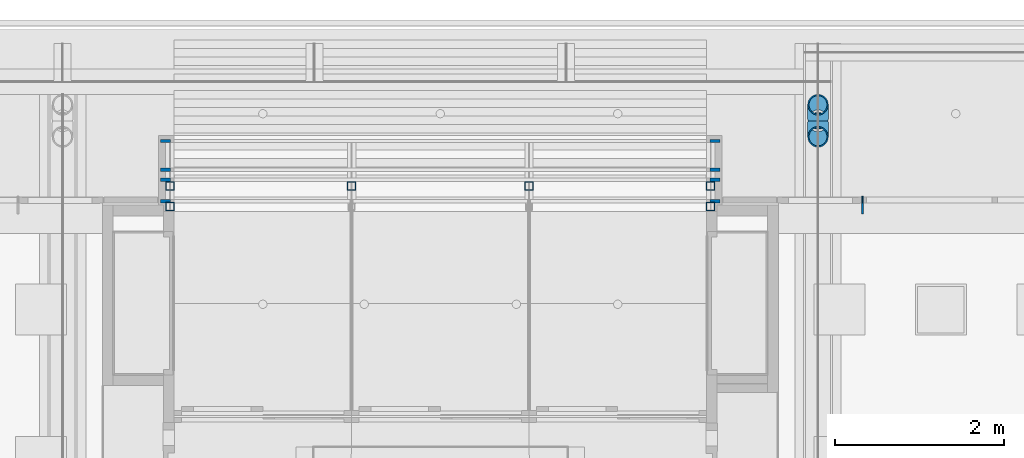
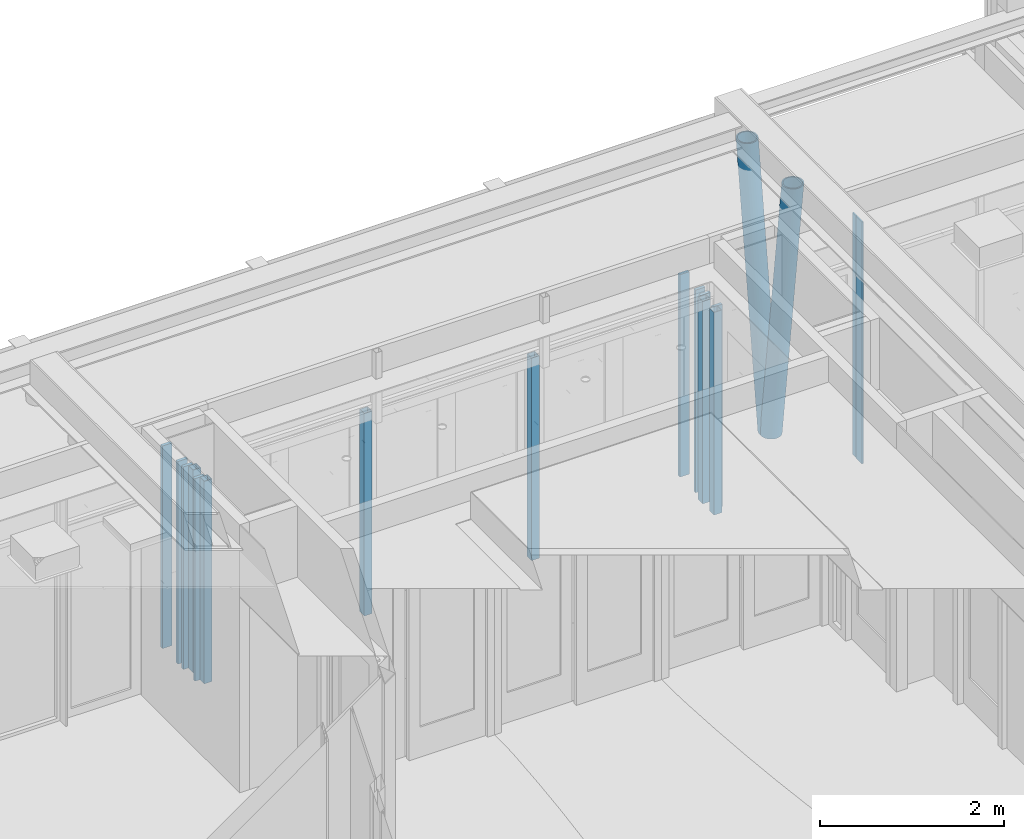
# One storey, part 21 of 347: 18 columns.
"""IFC2X3 building model written with IfcOpenShell, lengths in millimetres."""

from ifc_helpers import new_model, entity, si_unit, converted_unit, derived_unit, money_unit, direction, frame, origin_with_axes, place, context, subcontext, project, spatial, faceted_brep, material, type_object, element, save


model = new_model("IFC2X3")

# Units and contexts
model_context = context("Model", 3, precision=0.01, world=origin_with_axes(), true_north=direction((0.0, 1.0)))
plan_context = context("Plan", 3, precision=0.01, world=origin_with_axes(), true_north=direction((0.0, 1.0)))
body_context = subcontext(model_context, "Body", "Model", "MODEL_VIEW")
ifc_project = project(units=[si_unit("LENGTHUNIT", "METRE", prefix="MILLI"), si_unit("AREAUNIT", "SQUARE_METRE"), si_unit("VOLUMEUNIT", "CUBIC_METRE"), converted_unit("PLANEANGLEUNIT", "DEGREE", entity("IfcPlaneAngleMeasure", 0.0174532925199), si_unit("PLANEANGLEUNIT", "RADIAN"), dimensions=[0, 0, 0, 0, 0, 0, 0]), money_unit("EUR"), converted_unit("TIMEUNIT", "Year", entity("IfcTimeMeasure", 31556926.0), si_unit("TIMEUNIT", "SECOND"), dimensions=[0, 0, 1, 0, 0, 0, 0]), si_unit("MASSUNIT", "GRAM", prefix="KILO"), si_unit("THERMODYNAMICTEMPERATUREUNIT", "DEGREE_CELSIUS"), si_unit("LUMINOUSINTENSITYUNIT", "LUMEN"), si_unit("ENERGYUNIT", "JOULE", prefix="MEGA"), derived_unit("THERMALCONDUCTANCEUNIT", [(si_unit("POWERUNIT", "WATT"), 1), (si_unit("LENGTHUNIT", "METRE"), -1), (si_unit("THERMODYNAMICTEMPERATUREUNIT", "KELVIN"), -1)]), derived_unit("SPECIFICHEATCAPACITYUNIT", [(si_unit("ENERGYUNIT", "JOULE"), 1), (si_unit("MASSUNIT", "GRAM", prefix="KILO"), -1), (si_unit("THERMODYNAMICTEMPERATUREUNIT", "KELVIN"), -1)]), derived_unit("MASSDENSITYUNIT", [(si_unit("MASSUNIT", "GRAM", prefix="KILO"), 1), (si_unit("VOLUMEUNIT", "CUBIC_METRE"), -1)])], contexts=[model_context, plan_context])

# Site, building, storey
site_placement = place(None, origin_with_axes())
site = spatial("IfcSite", under=ifc_project, at=site_placement, Name="Site", CompositionType="ELEMENT")
building_placement = place(site_placement, origin_with_axes())
building = spatial("IfcBuilding", under=site, at=building_placement, Name="Naam gebouw", CompositionType="ELEMENT")
storey_placement = place(building_placement, origin_with_axes())
storey = spatial("IfcBuildingStorey", under=building, at=storey_placement, Name="begane grond", CompositionType="ELEMENT", Elevation=0.0)

# Columns
ifc_material_1 = material(Name="Metaal - Staal C wit")
column_type_1 = type_object("IfcColumnType", Name="Lucht D245", PredefinedType="COLUMN")
column_1_placement = place(storey_placement, frame((44545.0, 46102.3770701, -70.0), z_axis=(0.0, 0.0, 1.0), x_axis=(-1.0, 0.0, 0.0)))
element("IfcColumn", 1, at=column_1_placement, inside=storey, type_object=column_type_1, material=ifc_material_1, Name="28_kolom ø 273mm", ObjectType="COLUMN", context=body_context, shape_type="Brep", body=[
    faceted_brep([(119.184937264, 27.4379193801, 0.0), (110.143444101, 53.4999869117, 0.0), (110.143444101, 528.765503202, 3610.0), (119.184937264, 502.703435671, 3610.0), (122.25, 0.0, 0.0), (119.184937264, -27.4379193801, 0.0), (110.143444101, -53.4999869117, 0.0), (95.5788987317, -76.879341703, 0.0), (76.2216282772, -96.4036452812, 0.0), (53.0422871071, -111.093867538, 0.0), (27.2031841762, -120.21337939, 0.0), (0.0, -123.304890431, 0.0), (-27.2031841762, -120.21337939, 0.0), (-53.0422871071, -111.093867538, 0.0), (-76.2216282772, -96.4036452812, 0.0), (-95.5788987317, -76.879341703, 0.0), (-110.143444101, -53.4999869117, 0.0), (-119.184937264, -27.4379193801, 0.0), (-122.25, 0.0, 0.0), (-119.184937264, 27.4379193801, 0.0), (-110.143444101, 53.4999869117, 0.0), (-95.5788987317, 76.879341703, 0.0), (-76.2216282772, 96.4036452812, 0.0), (-53.0422871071, 111.093867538, 0.0), (-27.2031841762, 120.21337939, 0.0), (0.0, 123.304890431, 0.0), (27.2031841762, 120.21337939, 0.0), (53.0422871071, 111.093867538, 0.0), (76.2216282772, 96.4036452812, 0.0), (95.5788987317, 76.879341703, 0.0), (102.629619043, -27.7368158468, 0.0), (106.25, 0.0, 0.0), (102.629619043, 27.7368158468, 0.0), (92.0151991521, 53.5834135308, 0.0), (75.1300955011, 75.7783901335, 0.0), (53.125, 92.8091946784, 0.0), (27.4995235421, 103.51520598, 0.0), (0.0, 107.166827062, 0.0), (-27.4995235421, 103.51520598, 0.0), (-53.125, 92.8091946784, 0.0), (-75.1300955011, 75.7783901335, 0.0), (-92.0151991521, 53.5834135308, 0.0), (-102.629619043, 27.7368158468, 0.0), (-106.25, 0.0, 0.0), (-102.629619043, -27.7368158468, 0.0), (-92.0151991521, -53.5834135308, 0.0), (-75.1300955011, -75.7783901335, 0.0), (-53.125, -92.8091946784, 0.0), (-27.4995235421, -103.51520598, 0.0), (0.0, -107.166827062, 0.0), (27.4995235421, -103.51520598, 0.0), (53.125, -92.8091946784, 0.0), (75.1300955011, -75.7783901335, 0.0), (92.0151991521, -53.5834135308, 0.0), (95.5788987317, 552.144857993, 3610.0), (76.2216282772, 571.669161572, 3610.0), (53.0422871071, 586.359383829, 3610.0), (27.2031841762, 595.47889568, 3610.0), (0.0, 598.570406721, 3610.0), (-27.2031841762, 595.47889568, 3610.0), (-53.0422871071, 586.359383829, 3610.0), (-76.2216282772, 571.669161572, 3610.0), (-95.5788987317, 552.144857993, 3610.0), (-110.143444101, 528.765503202, 3610.0), (-119.184937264, 502.703435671, 3610.0), (-122.25, 475.26551629, 3610.0), (-119.184937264, 447.82759691, 3610.0), (-110.143444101, 421.765529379, 3610.0), (-95.5788987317, 398.386174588, 3610.0), (-76.2216282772, 378.861871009, 3610.0), (-53.0422871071, 364.171648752, 3610.0), (-27.2031841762, 355.052136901, 3610.0), (0.0, 351.96062586, 3610.0), (27.2031841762, 355.052136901, 3610.0), (53.0422871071, 364.171648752, 3610.0), (76.2216282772, 378.861871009, 3610.0), (95.5788987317, 398.386174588, 3610.0), (110.143444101, 421.765529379, 3610.0), (119.184937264, 447.82759691, 3610.0), (122.25, 475.26551629, 3610.0), (102.629619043, 447.528700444, 3610.0), (92.0151991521, 421.68210276, 3610.0), (75.1300955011, 399.487126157, 3610.0), (53.125, 382.456321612, 3610.0), (27.4995235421, 371.75031031, 3610.0), (0.0, 368.098689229, 3610.0), (-27.4995235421, 371.75031031, 3610.0), (-53.125, 382.456321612, 3610.0), (-75.1300955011, 399.487126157, 3610.0), (-92.0151991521, 421.68210276, 3610.0), (-102.629619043, 447.528700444, 3610.0), (-106.25, 475.26551629, 3610.0), (-102.629619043, 503.002332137, 3610.0), (-92.0151991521, 528.848929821, 3610.0), (-75.1300955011, 551.043906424, 3610.0), (-53.125, 568.074710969, 3610.0), (-27.4995235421, 578.780722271, 3610.0), (0.0, 582.432343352, 3610.0), (27.4995235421, 578.780722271, 3610.0), (53.125, 568.074710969, 3610.0), (75.1300955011, 551.043906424, 3610.0), (92.0151991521, 528.848929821, 3610.0), (102.629619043, 503.002332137, 3610.0), (106.25, 475.26551629, 3610.0)], [[[0, 1, 2, 3]], [[0, 4, 5, 6, 7, 8, 9, 10, 11, 12, 13, 14, 15, 16, 17, 18, 19, 20, 21, 22, 23, 24, 25, 26, 27, 28, 29, 1], [30, 31, 32, 33, 34, 35, 36, 37, 38, 39, 40, 41, 42, 43, 44, 45, 46, 47, 48, 49, 50, 51, 52, 53]], [[1, 29, 54, 2]], [[3, 2, 54, 55, 56, 57, 58, 59, 60, 61, 62, 63, 64, 65, 66, 67, 68, 69, 70, 71, 72, 73, 74, 75, 76, 77, 78, 79], [80, 81, 82, 83, 84, 85, 86, 87, 88, 89, 90, 91, 92, 93, 94, 95, 96, 97, 98, 99, 100, 101, 102, 103]], [[4, 0, 3, 79]], [[5, 4, 79, 78]], [[6, 5, 78, 77]], [[7, 6, 77, 76]], [[8, 7, 76, 75]], [[9, 8, 75, 74]], [[10, 9, 74, 73]], [[11, 10, 73, 72]], [[12, 11, 72, 71]], [[13, 12, 71, 70]], [[14, 13, 70, 69]], [[15, 14, 69, 68]], [[16, 15, 68, 67]], [[17, 16, 67, 66]], [[18, 17, 66, 65]], [[19, 18, 65, 64]], [[20, 19, 64, 63]], [[21, 20, 63, 62]], [[22, 21, 62, 61]], [[23, 22, 61, 60]], [[24, 23, 60, 59]], [[25, 24, 59, 58]], [[26, 25, 58, 57]], [[27, 26, 57, 56]], [[28, 27, 56, 55]], [[29, 28, 55, 54]], [[31, 30, 80, 103]], [[32, 31, 103, 102]], [[33, 32, 102, 101]], [[34, 33, 101, 100]], [[35, 34, 100, 99]], [[36, 35, 99, 98]], [[37, 36, 98, 97]], [[38, 37, 97, 96]], [[39, 38, 96, 95]], [[40, 39, 95, 94]], [[41, 40, 94, 93]], [[42, 41, 93, 92]], [[43, 42, 92, 91]], [[44, 43, 91, 90]], [[45, 44, 90, 89]], [[46, 45, 89, 88]], [[47, 46, 88, 87]], [[48, 47, 87, 86]], [[49, 48, 86, 85]], [[50, 49, 85, 84]], [[51, 50, 84, 83]], [[52, 51, 83, 82]], [[53, 52, 82, 81]], [[30, 53, 81, 80]]]),
])
column_2_placement = place(storey_placement, frame((44545.0, 46145.9641106, -70.0), z_axis=(0.0, 0.0, 1.0), x_axis=(1.0, 0.0, 0.0)))
element("IfcColumn", 2, at=column_2_placement, inside=storey, type_object=column_type_1, material=ifc_material_1, Name="28_kolom ø 273mm", ObjectType="COLUMN", context=body_context, shape_type="Brep", body=[
    faceted_brep([(-122.25, 0.0, 0.0), (-119.184937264, -27.4379193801, 0.0), (-119.184937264, 447.82759691, 3610.0), (-122.25, 475.26551629, 3610.0), (-119.184937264, 27.4379193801, 0.0), (-110.143444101, 53.4999869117, 0.0), (-95.5788987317, 76.879341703, 0.0), (-76.2216282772, 96.4036452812, 0.0), (-53.0422871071, 111.093867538, 0.0), (-27.2031841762, 120.21337939, 0.0), (0.0, 123.304890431, 0.0), (27.2031841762, 120.21337939, 0.0), (53.0422871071, 111.093867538, 0.0), (76.2216282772, 96.4036452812, 0.0), (95.5788987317, 76.879341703, 0.0), (110.143444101, 53.4999869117, 0.0), (119.184937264, 27.4379193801, 0.0), (122.25, 0.0, 0.0), (119.184937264, -27.4379193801, 0.0), (110.143444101, -53.4999869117, 0.0), (95.5788987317, -76.879341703, 0.0), (76.2216282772, -96.4036452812, 0.0), (53.0422871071, -111.093867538, 0.0), (27.2031841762, -120.21337939, 0.0), (0.0, -123.304890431, 0.0), (-27.2031841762, -120.21337939, 0.0), (-53.0422871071, -111.093867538, 0.0), (-76.2216282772, -96.4036452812, 0.0), (-95.5788987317, -76.879341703, 0.0), (-110.143444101, -53.4999869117, 0.0), (-106.25, 0.0, 0.0), (-102.629619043, -27.7368158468, 0.0), (-92.0151991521, -53.5834135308, 0.0), (-75.1300955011, -75.7783901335, 0.0), (-53.125, -92.8091946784, 0.0), (-27.4995235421, -103.51520598, 0.0), (0.0, -107.166827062, 0.0), (27.4995235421, -103.51520598, 0.0), (53.125, -92.8091946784, 0.0), (75.1300955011, -75.7783901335, 0.0), (92.0151991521, -53.5834135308, 0.0), (102.629619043, -27.7368158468, 0.0), (106.25, 0.0, 0.0), (102.629619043, 27.7368158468, 0.0), (92.0151991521, 53.5834135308, 0.0), (75.1300955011, 75.7783901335, 0.0), (53.125, 92.8091946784, 0.0), (27.4995235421, 103.51520598, 0.0), (0.0, 107.166827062, 0.0), (-27.4995235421, 103.51520598, 0.0), (-53.125, 92.8091946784, 0.0), (-75.1300955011, 75.7783901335, 0.0), (-92.0151991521, 53.5834135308, 0.0), (-102.629619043, 27.7368158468, 0.0), (-110.143444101, 421.765529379, 3610.0), (-95.5788987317, 398.386174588, 3610.0), (-76.2216282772, 378.861871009, 3610.0), (-53.0422871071, 364.171648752, 3610.0), (-27.2031841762, 355.052136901, 3610.0), (0.0, 351.96062586, 3610.0), (27.2031841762, 355.052136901, 3610.0), (53.0422871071, 364.171648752, 3610.0), (76.2216282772, 378.861871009, 3610.0), (95.5788987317, 398.386174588, 3610.0), (110.143444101, 421.765529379, 3610.0), (119.184937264, 447.82759691, 3610.0), (122.25, 475.26551629, 3610.0), (119.184937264, 502.703435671, 3610.0), (110.143444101, 528.765503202, 3610.0), (95.5788987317, 552.144857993, 3610.0), (76.2216282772, 571.669161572, 3610.0), (53.0422871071, 586.359383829, 3610.0), (27.2031841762, 595.47889568, 3610.0), (0.0, 598.570406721, 3610.0), (-27.2031841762, 595.47889568, 3610.0), (-53.0422871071, 586.359383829, 3610.0), (-76.2216282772, 571.669161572, 3610.0), (-95.5788987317, 552.144857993, 3610.0), (-110.143444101, 528.765503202, 3610.0), (-119.184937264, 502.703435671, 3610.0), (-106.25, 475.26551629, 3610.0), (-102.629619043, 503.002332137, 3610.0), (-92.0151991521, 528.848929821, 3610.0), (-75.1300955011, 551.043906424, 3610.0), (-53.125, 568.074710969, 3610.0), (-27.4995235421, 578.780722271, 3610.0), (0.0, 582.432343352, 3610.0), (27.4995235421, 578.780722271, 3610.0), (53.125, 568.074710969, 3610.0), (75.1300955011, 551.043906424, 3610.0), (92.0151991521, 528.848929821, 3610.0), (102.629619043, 503.002332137, 3610.0), (106.25, 475.26551629, 3610.0), (102.629619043, 447.528700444, 3610.0), (92.0151991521, 421.68210276, 3610.0), (75.1300955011, 399.487126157, 3610.0), (53.125, 382.456321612, 3610.0), (27.4995235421, 371.75031031, 3610.0), (0.0, 368.098689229, 3610.0), (-27.4995235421, 371.75031031, 3610.0), (-53.125, 382.456321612, 3610.0), (-75.1300955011, 399.487126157, 3610.0), (-92.0151991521, 421.68210276, 3610.0), (-102.629619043, 447.528700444, 3610.0)], [[[0, 1, 2, 3]], [[0, 4, 5, 6, 7, 8, 9, 10, 11, 12, 13, 14, 15, 16, 17, 18, 19, 20, 21, 22, 23, 24, 25, 26, 27, 28, 29, 1], [30, 31, 32, 33, 34, 35, 36, 37, 38, 39, 40, 41, 42, 43, 44, 45, 46, 47, 48, 49, 50, 51, 52, 53]], [[1, 29, 54, 2]], [[3, 2, 54, 55, 56, 57, 58, 59, 60, 61, 62, 63, 64, 65, 66, 67, 68, 69, 70, 71, 72, 73, 74, 75, 76, 77, 78, 79], [80, 81, 82, 83, 84, 85, 86, 87, 88, 89, 90, 91, 92, 93, 94, 95, 96, 97, 98, 99, 100, 101, 102, 103]], [[4, 0, 3, 79]], [[5, 4, 79, 78]], [[6, 5, 78, 77]], [[7, 6, 77, 76]], [[8, 7, 76, 75]], [[9, 8, 75, 74]], [[10, 9, 74, 73]], [[11, 10, 73, 72]], [[12, 11, 72, 71]], [[13, 12, 71, 70]], [[14, 13, 70, 69]], [[15, 14, 69, 68]], [[16, 15, 68, 67]], [[17, 16, 67, 66]], [[18, 17, 66, 65]], [[19, 18, 65, 64]], [[20, 19, 64, 63]], [[21, 20, 63, 62]], [[22, 21, 62, 61]], [[23, 22, 61, 60]], [[24, 23, 60, 59]], [[25, 24, 59, 58]], [[26, 25, 58, 57]], [[27, 26, 57, 56]], [[28, 27, 56, 55]], [[29, 28, 55, 54]], [[31, 30, 80, 103]], [[32, 31, 103, 102]], [[33, 32, 102, 101]], [[34, 33, 101, 100]], [[35, 34, 100, 99]], [[36, 35, 99, 98]], [[37, 36, 98, 97]], [[38, 37, 97, 96]], [[39, 38, 96, 95]], [[40, 39, 95, 94]], [[41, 40, 94, 93]], [[42, 41, 93, 92]], [[43, 42, 92, 91]], [[44, 43, 91, 90]], [[45, 44, 90, 89]], [[46, 45, 89, 88]], [[47, 46, 88, 87]], [[48, 47, 87, 86]], [[49, 48, 86, 85]], [[50, 49, 85, 84]], [[51, 50, 84, 83]], [[52, 51, 83, 82]], [[53, 52, 82, 81]], [[30, 53, 81, 80]]]),
])
column_type_2 = type_object("IfcColumnType", Name="Metaal - Staal C wit 20 x 130", PredefinedType="COLUMN")
column_3_placement = place(storey_placement, frame((45072.5000007, 45087.9999243, -10.0), z_axis=(0.0, 0.0, 1.0), x_axis=(-1.0, 0.0, 0.0)))
element("IfcColumn", 3, at=column_3_placement, inside=storey, type_object=column_type_2, material=ifc_material_1, Name="28_kolom koker", ObjectType="COLUMN", context=body_context, shape_type="Brep", body=[
    faceted_brep([(-10.0, -65.0, 3210.0), (-10.0, -65.0, 0.0), (10.0, -65.0, 0.0), (10.0, -65.0, 3210.0), (-10.0, 65.0, 3210.0), (-10.0, 65.0, 0.0), (10.0, 65.0, 0.0), (10.0, 65.0, 3210.0)], [[[0, 1, 2, 3]], [[4, 5, 1, 0]], [[2, 1, 5, 6]], [[3, 2, 6, 7]], [[4, 0, 3, 7]], [[7, 6, 5, 4]]]),
])
ifc_material_2 = material(Name="Metaal - Aluminium beige")
column_type_3 = type_object("IfcColumnType", Name="Metaal - Aluminium beige 15 x 80", PredefinedType="COLUMN")
column_4_placement = place(storey_placement, frame((45072.5000007, 45193.0, -10.0), z_axis=(0.0, 0.0, 1.0), x_axis=(-1.0, 0.0, 0.0)))
element("IfcColumn", 4, at=column_4_placement, inside=storey, type_object=column_type_3, material=ifc_material_2, Name="28_kolom koker", ObjectType="COLUMN", context=body_context, shape_type="Brep", body=[
    faceted_brep([(-7.5, -40.0, 3210.0), (-7.5, -40.0, 0.0), (7.5, -40.0, 0.0), (7.5, -40.0, 3210.0), (-7.5, 40.0, 3210.0), (-7.5, 40.0, 0.0), (7.5, 40.0, 0.0), (7.5, 40.0, 3210.0)], [[[0, 1, 2, 3]], [[4, 5, 1, 0]], [[2, 1, 5, 6]], [[3, 2, 6, 7]], [[4, 0, 3, 7]], [[7, 6, 5, 4]]]),
])
ifc_material_3 = material(Name="Hout C")
column_type_4 = type_object("IfcColumnType", Name="Hout C 120 x 38", PredefinedType="COLUMN")
for number, where, z_axis, x_axis in (
    (5, (36825.0, 45545.0, -70.0), (0.0, 0.0, 1.0), (1.0, 0.0, 0.0)),
    (6, (43325.0, 45545.0, -70.0), (0.0, 0.0, 1.0), (1.0, 0.0, 0.0)),
    (7, (43325.0, 45172.0, -70.0), (0.0, 0.0, 1.0), (1.0, 0.0, 0.0)),
    (8, (43325.0, 45427.0, -70.0), (0.0, 0.0, 1.0), (1.0, 0.0, 0.0)),
    (9, (43325.0, 45885.0, -70.0), (0.0, 0.0, 1.0), (1.0, 0.0, 0.0)),
    (10, (36825.0, 45172.0, -70.0), (0.0, 0.0, 1.0), (1.0, 0.0, 0.0)),
    (11, (36825.0, 45427.0, -70.0), (0.0, 0.0, 1.0), (1.0, 0.0, 0.0)),
    (12, (36825.0, 45885.0, -70.0), (0.0, 0.0, 1.0), (1.0, 0.0, 0.0)),
):
    element("IfcColumn", number, at=place(storey_placement, frame(where, z_axis=z_axis, x_axis=x_axis)), inside=storey, type_object=column_type_4, material=ifc_material_3, Name="28_kolom ø 273mm", ObjectType="COLUMN", context=body_context, shape_type="Brep", body=[
        faceted_brep([(-60.0, -19.0, 2690.0), (-60.0, -19.0, 0.0), (60.0, -19.0, 0.0), (60.0, -19.0, 2690.0), (-60.0, 19.0, 2690.0), (-60.0, 19.0, 0.0), (60.0, 19.0, 0.0), (60.0, 19.0, 2690.0)], [[[0, 1, 2, 3]], [[4, 5, 1, 0]], [[2, 1, 5, 6]], [[3, 2, 6, 7]], [[4, 0, 3, 7]], [[7, 6, 5, 4]]]),
    ])
ifc_material_4 = material(Name="Metaal - Staal C")
column_type_5 = type_object("IfcColumnType", Name="Lucht 100 x 100", PredefinedType="COLUMN")
for number, where, z_axis, x_axis in (
    (13, (43275.0, 45108.0, -70.0), (0.0, 0.0, 1.0), (1.0, 0.0, 0.0)),
    (14, (36875.0, 45108.0, -70.0), (0.0, 0.0, 1.0), (1.0, 0.0, 0.0)),
    (15, (43275.0, 45353.0, -70.0), (0.0, 0.0, 1.0), (1.0, 0.0, 0.0)),
):
    element("IfcColumn", number, at=place(storey_placement, frame(where, z_axis=z_axis, x_axis=x_axis)), inside=storey, type_object=column_type_5, material=ifc_material_4, Name="28_kolom ø 273mm", ObjectType="COLUMN", context=body_context, shape_type="Brep", body=[
        faceted_brep([(-50.0, -50.0, 0.0), (50.0, -50.0, 0.0), (50.0, -50.0, 2690.0), (-50.0, -50.0, 2690.0), (-50.0, 50.0, 0.0), (50.0, 50.0, 0.0), (-45.0, -45.0, 0.0), (45.0, -45.0, 0.0), (45.0, 45.0, 0.0), (-45.0, 45.0, 0.0), (50.0, 50.0, 2690.0), (-50.0, 50.0, 2690.0), (-45.0, -45.0, 2690.0), (-45.0, 45.0, 2690.0), (45.0, 45.0, 2690.0), (45.0, -45.0, 2690.0)], [[[0, 1, 2, 3]], [[0, 4, 5, 1], [6, 7, 8, 9]], [[1, 5, 10, 2]], [[3, 2, 10, 11], [12, 13, 14, 15]], [[4, 0, 3, 11]], [[5, 4, 11, 10]], [[7, 6, 12, 15]], [[8, 7, 15, 14]], [[9, 8, 14, 13]], [[6, 9, 13, 12]]]),
    ])
for number, where, z_axis, x_axis in (
    (16, (41125.0, 45353.0, -70.0), (0.0, 0.0, 1.0), (1.0, 0.0, 0.0)),
    (17, (39025.0, 45353.0, -70.0), (0.0, 0.0, 1.0), (1.0, 0.0, 0.0)),
):
    element("IfcColumn", number, at=place(storey_placement, frame(where, z_axis=z_axis, x_axis=x_axis)), inside=storey, type_object=column_type_5, material=ifc_material_1, Name="28_kolom ø 273mm", ObjectType="COLUMN", context=body_context, shape_type="Brep", body=[
        faceted_brep([(-50.0, -50.0, 0.0), (50.0, -50.0, 0.0), (50.0, -50.0, 2690.0), (-50.0, -50.0, 2690.0), (-50.0, 50.0, 0.0), (50.0, 50.0, 0.0), (-45.0, -45.0, 0.0), (45.0, -45.0, 0.0), (45.0, 45.0, 0.0), (-45.0, 45.0, 0.0), (50.0, 50.0, 2690.0), (-50.0, 50.0, 2690.0), (-45.0, -45.0, 2690.0), (-45.0, 45.0, 2690.0), (45.0, 45.0, 2690.0), (45.0, -45.0, 2690.0)], [[[0, 1, 2, 3]], [[0, 4, 5, 1], [6, 7, 8, 9]], [[1, 5, 10, 2]], [[3, 2, 10, 11], [12, 13, 14, 15]], [[4, 0, 3, 11]], [[5, 4, 11, 10]], [[7, 6, 12, 15]], [[8, 7, 15, 14]], [[9, 8, 14, 13]], [[6, 9, 13, 12]]]),
    ])
column_5_placement = place(storey_placement, frame((36875.0, 45353.0, -70.0), z_axis=(0.0, 0.0, 1.0), x_axis=(1.0, 0.0, 0.0)))
element("IfcColumn", 18, at=column_5_placement, inside=storey, type_object=column_type_5, material=ifc_material_4, Name="28_kolom ø 273mm", ObjectType="COLUMN", context=body_context, shape_type="Brep", body=[
    faceted_brep([(-50.0, -50.0, 0.0), (50.0, -50.0, 0.0), (50.0, -50.0, 2690.0), (-50.0, -50.0, 2690.0), (-50.0, 50.0, 0.0), (50.0, 50.0, 0.0), (-45.0, -45.0, 0.0), (45.0, -45.0, 0.0), (45.0, 45.0, 0.0), (-45.0, 45.0, 0.0), (50.0, 50.0, 2690.0), (-50.0, 50.0, 2690.0), (-45.0, -45.0, 2690.0), (-45.0, 45.0, 2690.0), (45.0, 45.0, 2690.0), (45.0, -45.0, 2690.0)], [[[0, 1, 2, 3]], [[0, 4, 5, 1], [6, 7, 8, 9]], [[1, 5, 10, 2]], [[3, 2, 10, 11], [12, 13, 14, 15]], [[4, 0, 3, 11]], [[5, 4, 11, 10]], [[7, 6, 12, 15]], [[8, 7, 15, 14]], [[9, 8, 14, 13]], [[6, 9, 13, 12]]]),
])

save(model, "model.ifc")
